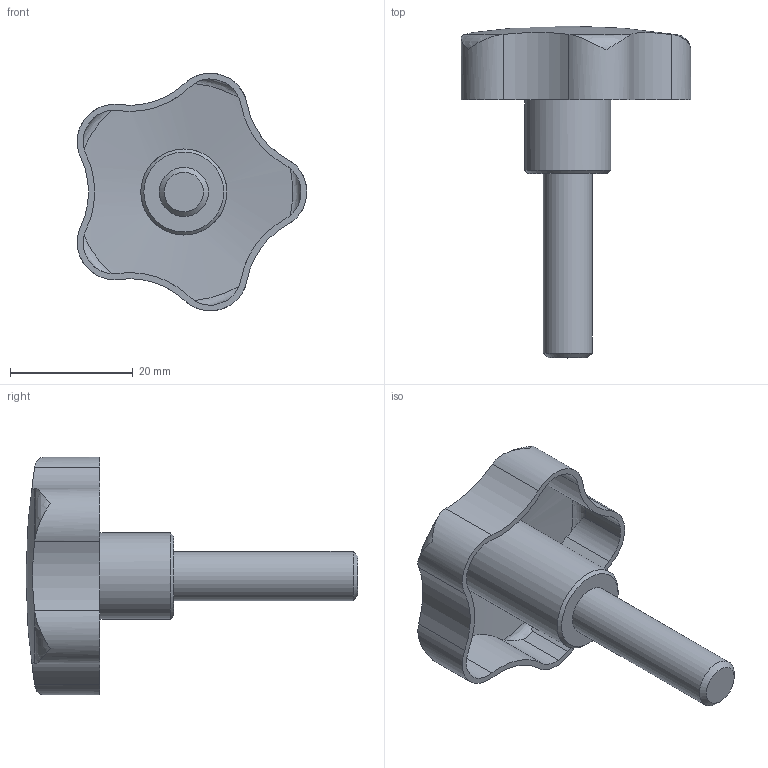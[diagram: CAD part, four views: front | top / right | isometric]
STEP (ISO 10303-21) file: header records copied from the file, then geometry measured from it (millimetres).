
FILE_DESCRIPTION( ( 'STEP AP203' ), '1' );
FILE_NAME( 'C:/Temp/Ganter_Step_05_03_2020/data/2_2/gn_5334_4/gn5334_4_2/Stainless Steel-Star knob with threaded bolt AISI 316L (A4) GN 5334.4-40-M8-30.stp', '2020-03-05T12:08:33', ( 'License CC BY-ND 4.0' ), ( 'CADENAS' ), ' ', 'PARTsolutions', ' ' );
FILE_SCHEMA( ( 'CONFIG_CONTROL_DESIGN' ) );
Length unit declared in the file: millimetre
Products named in the file (1): _Stainless Steel-Star knob with threaded bolt AISI 316L (A4) GN 5334.4-40-M8-30
Bounding box: 37.34 x 54 x 38.63 mm (x, y, z)
Volume: 7127.2 mm3; surface area: 6119.3 mm2
Topology: 1 solids, 1 shells, 49 faces, 140 edges, 94 vertices
Faces by surface type: cylinder 32, torus 10, plane 3, sphere 2, cone 2
Full cylindrical faces by diameter (mm): 8 x1, 14 x1
Entity records: 1978 total; most frequent: CARTESIAN_POINT 739, ORIENTED_EDGE 262, DIRECTION 232, EDGE_CURVE 131, AXIS2_PLACEMENT_3D 101, VERTEX_POINT 92, EDGE_LOOP 56, FACE_OUTER_BOUND 52
